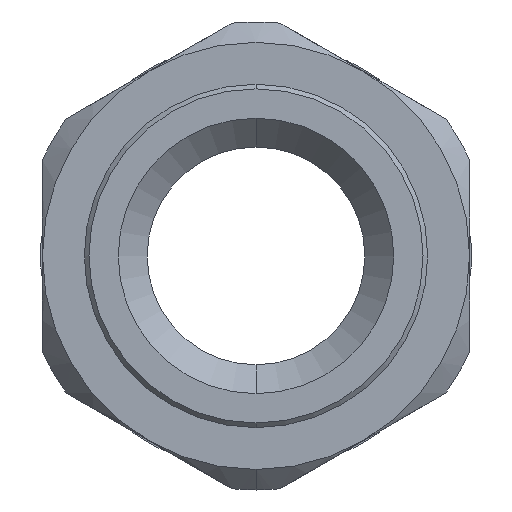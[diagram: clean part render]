
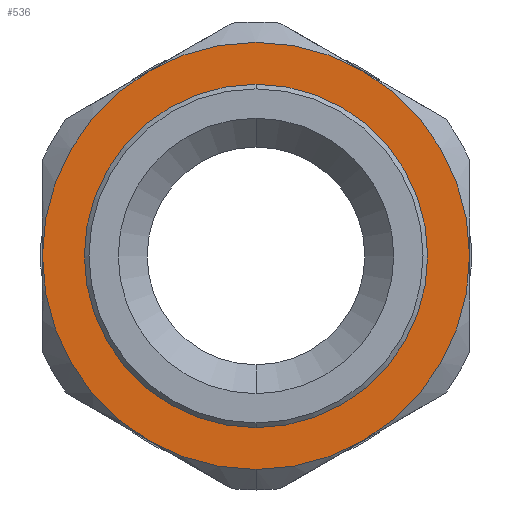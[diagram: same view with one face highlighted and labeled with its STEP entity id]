
A CAD part, front view. The second image highlights one B-rep face of the part: STEP entity #536.
In plain terms, the highlighted planar face has unit normal (0, -1, 0).
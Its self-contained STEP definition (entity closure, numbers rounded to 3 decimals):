
#32 = AXIS2_PLACEMENT_3D ( 'NONE', #1419, #1420, #1421 ) ;
#58 = AXIS2_PLACEMENT_3D ( 'NONE', #1331, #1332, #1333 ) ;
#71 = AXIS2_PLACEMENT_3D ( 'NONE', #1428, #1429, #1430 ) ;
#75 = AXIS2_PLACEMENT_3D ( 'NONE', #1422, #1423, #1424 ) ;
#120 = AXIS2_PLACEMENT_3D ( 'NONE', #2134, #2135, #2136 ) ;
#139 = AXIS2_PLACEMENT_3D ( 'NONE', #2463, #2464, #2465 ) ;
#159 = AXIS2_PLACEMENT_3D ( 'NONE', #1728, #1735, #1736 ) ;
#217 = FACE_OUTER_BOUND ( 'NONE', #1118, .T. ) ;
#277 = AXIS2_PLACEMENT_3D ( 'NONE', #1431, #1432, #1433 ) ;
#281 = AXIS2_PLACEMENT_3D ( 'NONE', #1425, #1426, #1427 ) ;
#352 = AXIS2_PLACEMENT_3D ( 'NONE', #1416, #1417, #1418 ) ;
#383 = FACE_BOUND ( 'NONE', #1119, .T. ) ;
#409 = CIRCLE ( 'NONE', #159, 18.45 ) ;
#444 = CIRCLE ( 'NONE', #277, 18.45 ) ;
#445 = CIRCLE ( 'NONE', #71, 22.95 ) ;
#446 = CIRCLE ( 'NONE', #281, 22.95 ) ;
#447 = CIRCLE ( 'NONE', #75, 22.95 ) ;
#448 = CIRCLE ( 'NONE', #32, 22.95 ) ;
#449 = CIRCLE ( 'NONE', #352, 22.95 ) ;
#458 = CIRCLE ( 'NONE', #58, 22.95 ) ;
#475 = CIRCLE ( 'NONE', #139, 22.95 ) ;
#536 = ADVANCED_FACE ( 'NONE', ( #383, #217 ), #2133, .F. ) ;
#634 = EDGE_CURVE ( 'NONE', #1934, #1928, #475, .T. ) ;
#672 = EDGE_CURVE ( 'NONE', #829, #867, #458, .T. ) ;
#696 = EDGE_CURVE ( 'NONE', #1928, #875, #449, .T. ) ;
#697 = EDGE_CURVE ( 'NONE', #879, #1934, #448, .T. ) ;
#698 = EDGE_CURVE ( 'NONE', #852, #879, #447, .T. ) ;
#699 = EDGE_CURVE ( 'NONE', #867, #852, #446, .T. ) ;
#700 = EDGE_CURVE ( 'NONE', #875, #829, #445, .T. ) ;
#701 = EDGE_CURVE ( 'NONE', #1209, #1208, #444, .T. ) ;
#780 = EDGE_CURVE ( 'NONE', #1208, #1209, #409, .T. ) ;
#829 = VERTEX_POINT ( 'NONE', #1741 ) ;
#852 = VERTEX_POINT ( 'NONE', #1764 ) ;
#867 = VERTEX_POINT ( 'NONE', #1779 ) ;
#875 = VERTEX_POINT ( 'NONE', #1787 ) ;
#879 = VERTEX_POINT ( 'NONE', #1791 ) ;
#1118 = EDGE_LOOP ( 'NONE', ( #1162, #1164, #1163, #1165, #1166, #1167, #1168 ) ) ;
#1119 = EDGE_LOOP ( 'NONE', ( #1160, #1161 ) ) ;
#1160 = ORIENTED_EDGE ( 'NONE', *, *, #780, .F. ) ;
#1161 = ORIENTED_EDGE ( 'NONE', *, *, #701, .F. ) ;
#1162 = ORIENTED_EDGE ( 'NONE', *, *, #700, .T. ) ;
#1163 = ORIENTED_EDGE ( 'NONE', *, *, #699, .T. ) ;
#1164 = ORIENTED_EDGE ( 'NONE', *, *, #672, .T. ) ;
#1165 = ORIENTED_EDGE ( 'NONE', *, *, #698, .T. ) ;
#1166 = ORIENTED_EDGE ( 'NONE', *, *, #697, .T. ) ;
#1167 = ORIENTED_EDGE ( 'NONE', *, *, #634, .T. ) ;
#1168 = ORIENTED_EDGE ( 'NONE', *, *, #696, .T. ) ;
#1208 = VERTEX_POINT ( 'NONE', #1797 ) ;
#1209 = VERTEX_POINT ( 'NONE', #1798 ) ;
#1331 = CARTESIAN_POINT ( 'NONE',  ( 0., 1., 0. ) ) ;
#1332 = DIRECTION ( 'NONE',  ( 0., -1., 0. ) ) ;
#1333 = DIRECTION ( 'NONE',  ( 0., 0., -1. ) ) ;
#1416 = CARTESIAN_POINT ( 'NONE',  ( 0., 1., 0. ) ) ;
#1417 = DIRECTION ( 'NONE',  ( 0., -1., 0. ) ) ;
#1418 = DIRECTION ( 'NONE',  ( 0., 0., -1. ) ) ;
#1419 = CARTESIAN_POINT ( 'NONE',  ( 0., 1., 0. ) ) ;
#1420 = DIRECTION ( 'NONE',  ( 0., -1., 0. ) ) ;
#1421 = DIRECTION ( 'NONE',  ( 0., 0., -1. ) ) ;
#1422 = CARTESIAN_POINT ( 'NONE',  ( 0., 1., 0. ) ) ;
#1423 = DIRECTION ( 'NONE',  ( 0., -1., 0. ) ) ;
#1424 = DIRECTION ( 'NONE',  ( 0., 0., -1. ) ) ;
#1425 = CARTESIAN_POINT ( 'NONE',  ( 0., 1., 0. ) ) ;
#1426 = DIRECTION ( 'NONE',  ( 0., -1., 0. ) ) ;
#1427 = DIRECTION ( 'NONE',  ( 0., 0., -1. ) ) ;
#1428 = CARTESIAN_POINT ( 'NONE',  ( 0., 1., 0. ) ) ;
#1429 = DIRECTION ( 'NONE',  ( 0., -1., 0. ) ) ;
#1430 = DIRECTION ( 'NONE',  ( 0., 0., -1. ) ) ;
#1431 = CARTESIAN_POINT ( 'NONE',  ( 0., 1., 0. ) ) ;
#1432 = DIRECTION ( 'NONE',  ( 0., -1., 0. ) ) ;
#1433 = DIRECTION ( 'NONE',  ( 0., 0., -1. ) ) ;
#1728 = CARTESIAN_POINT ( 'NONE',  ( 0., 1., 0. ) ) ;
#1735 = DIRECTION ( 'NONE',  ( 0., -1., 0. ) ) ;
#1736 = DIRECTION ( 'NONE',  ( 0., 0., -1. ) ) ;
#1741 = CARTESIAN_POINT ( 'NONE',  ( 11.475, 1., 19.875 ) ) ;
#1764 = CARTESIAN_POINT ( 'NONE',  ( -22.95, 1., 0. ) ) ;
#1779 = CARTESIAN_POINT ( 'NONE',  ( -11.475, 1., 19.875 ) ) ;
#1787 = CARTESIAN_POINT ( 'NONE',  ( 22.95, 1., 0. ) ) ;
#1791 = CARTESIAN_POINT ( 'NONE',  ( -11.475, 1., -19.875 ) ) ;
#1797 = CARTESIAN_POINT ( 'NONE',  ( 0., 1., -18.45 ) ) ;
#1798 = CARTESIAN_POINT ( 'NONE',  ( 0., 1., 18.45 ) ) ;
#1836 = CARTESIAN_POINT ( 'NONE',  ( 11.475, 1., -19.875 ) ) ;
#1842 = CARTESIAN_POINT ( 'NONE',  ( 0., 1., -22.95 ) ) ;
#1928 = VERTEX_POINT ( 'NONE', #1836 ) ;
#1934 = VERTEX_POINT ( 'NONE', #1842 ) ;
#2133 = PLANE ( 'NONE',  #120 ) ;
#2134 = CARTESIAN_POINT ( 'NONE',  ( -25.15, 1., 0. ) ) ;
#2135 = DIRECTION ( 'NONE',  ( 0., 1., 0. ) ) ;
#2136 = DIRECTION ( 'NONE',  ( 0., 0., 1. ) ) ;
#2463 = CARTESIAN_POINT ( 'NONE',  ( 0., 1., 0. ) ) ;
#2464 = DIRECTION ( 'NONE',  ( 0., -1., 0. ) ) ;
#2465 = DIRECTION ( 'NONE',  ( 0., 0., -1. ) ) ;
